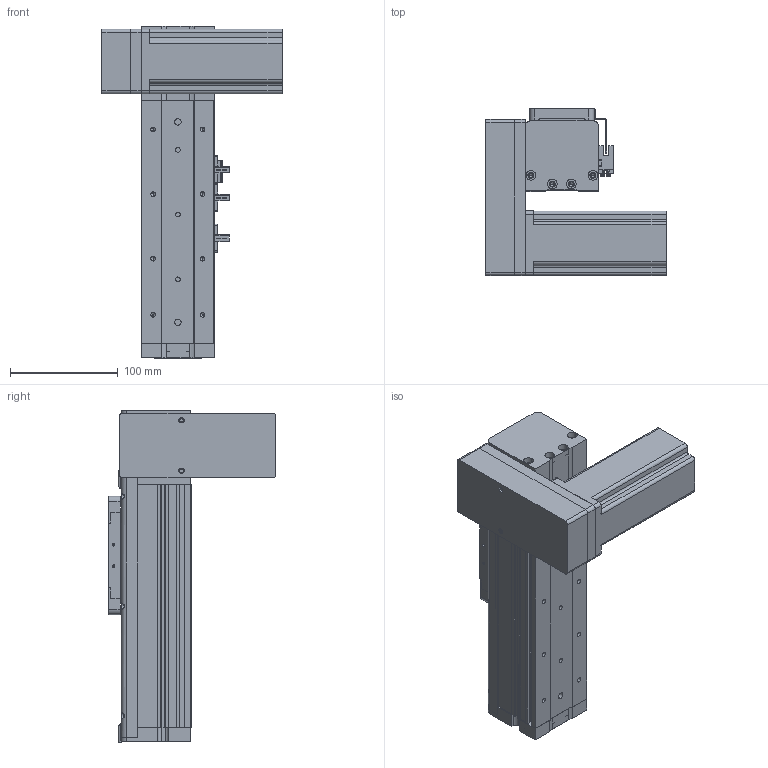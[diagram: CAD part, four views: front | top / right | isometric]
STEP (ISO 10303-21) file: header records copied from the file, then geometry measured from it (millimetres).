
FILE_DESCRIPTION (( 'STEP AP214' ), '1' );
FILE_NAME ('KSD68BS-S50-MRD-CR.STEP', '2019-08-28T01:43:21', ( '微软用户' ), ( '微软中国' ), 'SwSTEP 2.0', 'SolidWorks 2014', '' );
FILE_SCHEMA (( 'AUTOMOTIVE_DESIGN' ));
Length unit declared in the file: millimetre
Products named in the file (14): 68遵裔啣揤啣1; 68宽单导轨全封闭丝杆传动安装板1防护罩; 68宽单导轨全封闭同步带端板; KSD68BS 50行程侧板全封闭; 68单导轨全封闭同步带电机座右; 68单导轨全封闭同步带安装板; 悵誘欶奻狟殏; 68宽马达安装板连板上折同步带; KSD68BS 50行程盖板全封闭; 感应片68宽全封闭; U倰嫖萇EEㄜSX672; 台达ECMA－C20604AS伺服电机（400W); KSD68BS 50行程底板全封闭; KSD68BS-S50-MRD-CR
Assembly tree (17 placements, depth 2):
  KSD68BS-S50-MRD-CR
    KSD68BS 50行程底板全封闭
    台达ECMA－C20604AS伺服电机（400W)
    U倰嫖萇EEㄜSX672  x3
    感应片68宽全封闭
    68宽马达安装板连板上折同步带
    悵誘欶奻狟殏
    68单导轨全封闭同步带安装板
    68单导轨全封闭同步带电机座右
    68宽单导轨全封闭同步带端板
    KSD68BS 50行程侧板全封闭  x2
    68宽单导轨全封闭丝杆传动安装板1防护罩
    68遵裔啣揤啣1  x2
    KSD68BS 50行程盖板全封闭
Bounding box: 167.2 x 155.5 x 308.1 mm (x, y, z)
Volume: 1257235.7 mm3; surface area: 368312.6 mm2
Topology: 18 solids, 18 shells, 1350 faces, 3783 edges, 2435 vertices
Faces by surface type: plane 623, cylinder 599, cone 128
Entity records: 41274 total; most frequent: CARTESIAN_POINT 6877, DIRECTION 6271, ORIENTED_EDGE 6010, EDGE_CURVE 3005, AXIS2_PLACEMENT_3D 2219, VERTEX_POINT 1973, VECTOR 1833, LINE 1833
